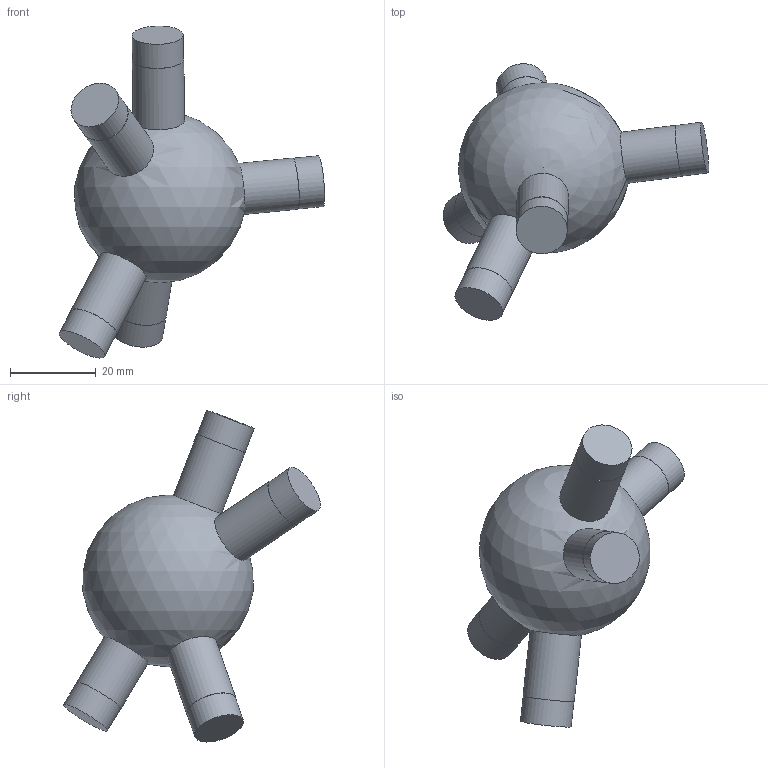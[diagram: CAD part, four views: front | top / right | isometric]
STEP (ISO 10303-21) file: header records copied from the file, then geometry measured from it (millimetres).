
FILE_DESCRIPTION(('Open CASCADE Model'),'2;1');
FILE_NAME('Open CASCADE Shape Model','2026-10-21T12:47:57',('Author'),( 'Open CASCADE'),'Open CASCADE STEP processor 7.9','Open CASCADE 7.9' ,'Unknown');
FILE_SCHEMA(('AUTOMOTIVE_DESIGN { 1 0 10303 214 1 1 1 1 }'));
Length unit declared in the file: millimetre
Products named in the file (1): Open CASCADE STEP translator 7.9 167
Bounding box: 61.85 x 59.83 x 77.35 mm (x, y, z)
Volume: 44759.9 mm3; surface area: 8859.9 mm2
Topology: 1 solids, 1 shells, 21 faces, 35 edges, 24 vertices
Faces by surface type: cylinder 10, plane 10, sphere 1
Full cylindrical faces by diameter (mm): 11.9 x5, 12 x5
Entity records: 1352 total; most frequent: CARTESIAN_POINT 558, DIRECTION 163, ORIENTED_EDGE 68, PCURVE 68, DEFINITIONAL_REPRESENTATION 68, LINE 56, VECTOR 56, AXIS2_PLACEMENT_3D 46
